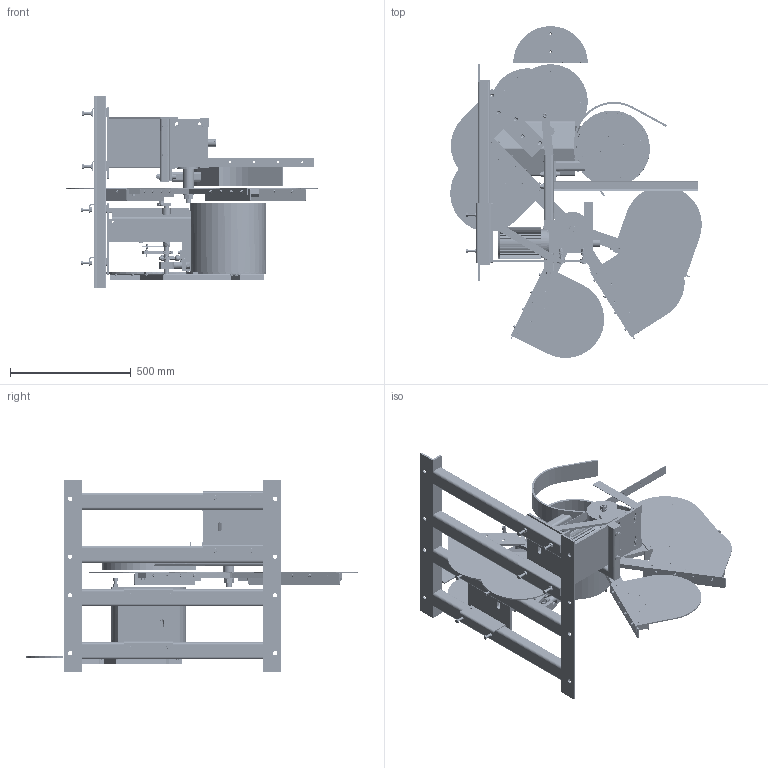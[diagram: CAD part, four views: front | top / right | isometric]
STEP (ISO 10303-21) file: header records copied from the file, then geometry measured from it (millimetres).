
FILE_DESCRIPTION(/* description */ ('CAx-IF Rec.Pracs.---Representation and Presentation of Product Manufacturing Information (PMI)---4.0---2014-10-13','CAx-IF Rec.Pracs.---3D Tessellated Geometry---0.4---2014-09-14','2;1'),/* implementation_level */ '2;1');
FILE_NAME(/* name */ '20171109_Densimeter_Right_version_Ultimate_positions_shovel_and_bottom',/* time_stamp */ '2023-11-15T17:02:30+01:00',/* author */ ('ADU'),/* organization */ ('INADCO Engineering'),/* preprocessor_version */ 'ST-DEVELOPER v19.4',/* originating_system */ 'Solid Edge',/* authorisation */ 'Unknown');
FILE_SCHEMA (('AP242_MANAGED_MODEL_BASED_3D_ENGINEERING_MIM_LF { 1 0 10303 442 1 1 4 }'));
Length unit declared in the file: millimetre
Products named in the file (2): 20171109_Densimeter_Right_version_Ultimate_positions_shovel_and_botto
m; 20161125 - Densimeter Right version Ultimate positions shovel and bot
tom
Assembly tree (1 placements, depth 2):
  20171109_Densimeter_Right_version_Ultimate_positions_shovel_and_botto
m
    20161125 - Densimeter Right version Ultimate positions shovel and bot
tom
Bounding box: 1043.38 x 1376.77 x 800 mm (x, y, z)
Volume: 27015478.2 mm3; surface area: 6605209 mm2
Topology: 3 solids, 165 shells, 9841 faces, 23349 edges, 14806 vertices
Faces by surface type: plane 5699, cone 1915, cylinder 1875, bspline 249, torus 97, sphere 6
Full cylindrical faces by diameter (mm): 1 x21, 1.5 x28, 2 x2, 3 x4, 3.5 x2, 4 x8, 4.02 x4, 4.134 x8, 4.5 x2, 4.727 x27, 4.747 x27, 4.75 x4, 4.77 x4, 4.917 x10, 5 x11, 5.25 x3, 5.3 x4, 6 x113, 6.01 x16, 6.4 x44, 6.418 x26, 6.438 x26, 6.45 x6, 6.468 x14, 6.47 x20, 6.5 x38, 6.647 x5, 6.8 x32, 7 x28, 7.3 x4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
Entity records: 360676 total; most frequent: CARTESIAN_POINT 83116, DIRECTION 41300, ORIENTED_EDGE 40646, EDGE_CURVE 20323, AXIS2_PLACEMENT_3D 15435, VERTEX_POINT 13697, FACE_BOUND 13242, EDGE_LOOP 13174
